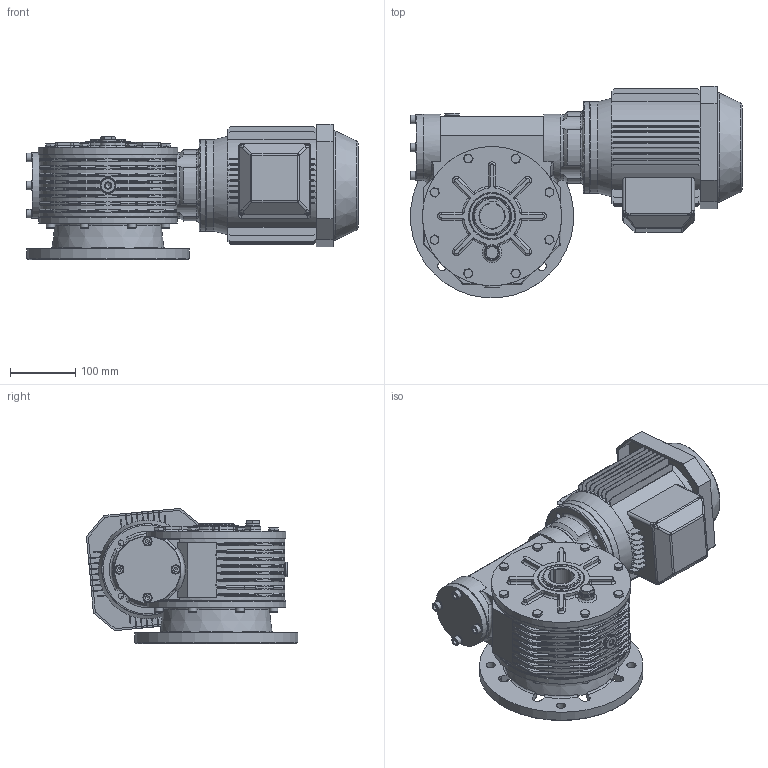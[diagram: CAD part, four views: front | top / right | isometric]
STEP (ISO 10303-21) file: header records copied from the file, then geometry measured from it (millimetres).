
FILE_DESCRIPTION((''),'2;1');
FILE_NAME('Y:\Archivi Inventor\Prog_01\GRAND_50\complessivi\Figurini\MRV50 sito\90s\mrv50_F1_90S_B14.stp','2013-02-08T10:28:32',('tech3'),(''),'Autodesk Inventor 2013','Autodesk Inventor 2013','');
FILE_SCHEMA(('AUTOMOTIVE_DESIGN { 1 0 10303 214 1 1 1 1 }'));
Length unit declared in the file: millimetre
Products named in the file (20): mrv50_90s_90l_b14; mrv50_fig; Figurino_carcassa_MRV50; 0105028; 0105029; figurino_corona_MRV50; Guarnizione 3_8 GAS; Tappo 3_8 GAS_esagn_incsst; figurino_0105009; ISO 4017 M8 x 20; 55_70_8; fig_0105002; figurino_0105003; ISO 4762 M8 x 16; Tappo3_8 GAS; UNI 6592 8.4 x 14; UNI 5931  M 8 x  25; 0105006; DIN EN ISO 4762 M8 x 25; motori B14 90S
Assembly tree (48 placements, depth 3):
  mrv50_90s_90l_b14
    mrv50_fig
      Figurino_carcassa_MRV50
      0105028  x2
      0105029  x2
      figurino_corona_MRV50
      Guarnizione 3_8 GAS  x3
      Tappo 3_8 GAS_esagn_incsst  x2
      figurino_0105009
      ISO 4017 M8 x 20  x8
      55_70_8  x2
      fig_0105002
      figurino_0105003
      ISO 4762 M8 x 16  x8
      Tappo3_8 GAS
      UNI 6592 8.4 x 14  x4
      UNI 5931  M 8 x  25  x4
    0105006
    DIN EN ISO 4762 M8 x 25  x4
    motori B14 90S
Bounding box: 507.8 x 323.03 x 206.86 mm (x, y, z)
Volume: 10658561.5 mm3; surface area: 1185512.6 mm2
Topology: 59 solids, 65 shells, 2083 faces, 5114 edges, 3086 vertices
Faces by surface type: plane 877, cylinder 611, torus 203, cone 202, bspline 156, sphere 34
Full cylindrical faces by diameter (mm): 2 x2, 6.647 x28, 8 x26, 8.4 x4, 8.5 x48, 9 x4, 11.63 x8, 13 x20, 13.046 x1, 14 x12, 14.95 x3, 16.3 x3, 16.5 x2, 22 x6, 24 x3, 55 x1, 60 x1, 66.4 x2, 69 x2, 70 x6, 72 x4, 73 x2, 75 x1, 80 x1, 90 x1, 95 x1, 99.5 x2, 101 x1, 102 x2, 114.4 x1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
Entity records: 58316 total; most frequent: CARTESIAN_POINT 19467, DIRECTION 7946, ORIENTED_EDGE 7520, EDGE_CURVE 3760, AXIS2_PLACEMENT_3D 3140, VERTEX_POINT 2453, EDGE_LOOP 2059, VECTOR 1666
